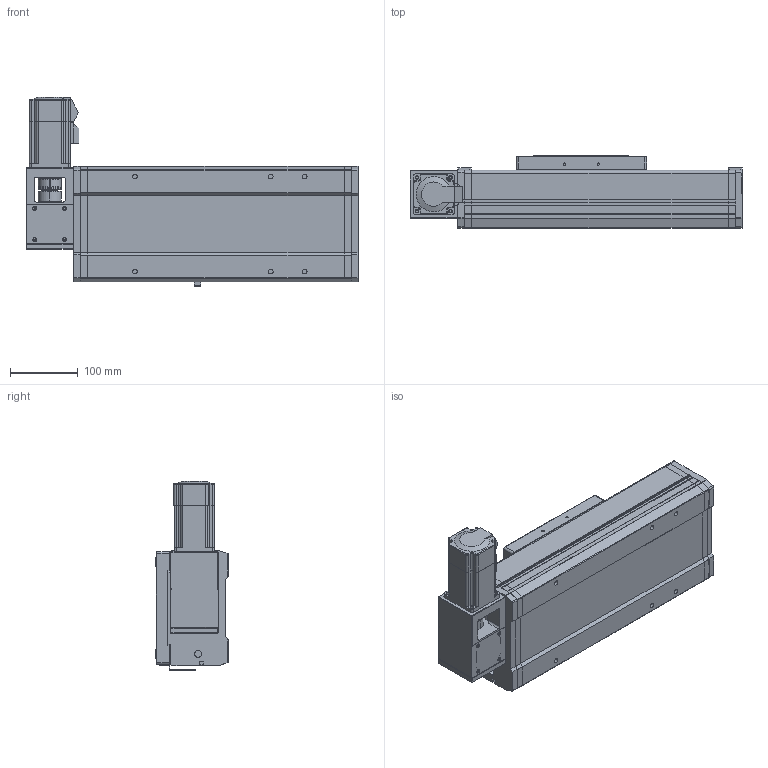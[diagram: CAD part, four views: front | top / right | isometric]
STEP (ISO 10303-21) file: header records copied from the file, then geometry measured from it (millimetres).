
FILE_DESCRIPTION((''),'2;1');
FILE_NAME('170-TZJ3FL-S100_ASM','2015-12-04T',('lenovo'),(''),'PRO/ENGINEER BY PARAMETRIC TECHNOLOGY CORPORATION, 2010280','PRO/ENGINEER BY PARAMETRIC TECHNOLOGY CORPORATION, 2010280','');
FILE_SCHEMA(('CONFIG_CONTROL_DESIGN'));
Length unit declared in the file: millimetre
Products named in the file (5): 170-TJFL-DZ; 170-HK; 170-HDB-01; 170-TZJ3FL-DJZ; 170-TZJ3FL-S100_ASM
Assembly tree (4 placements, depth 2):
  170-TZJ3FL-S100_ASM
    170-TJFL-DZ
    170-HK
    170-HDB-01
    170-TZJ3FL-DJZ
Bounding box: 489 x 107 x 278.5 mm (x, y, z)
Volume: 4314077 mm3; surface area: 719449.6 mm2
Topology: 6 solids, 30 shells, 1462 faces, 3985 edges, 2657 vertices
Faces by surface type: plane 786, cylinder 535, cone 113, torus 28
Entity records: 46939 total; most frequent: CARTESIAN_POINT 8387, DIRECTION 8228, ORIENTED_EDGE 7970, EDGE_CURVE 3985, AXIS2_PLACEMENT_3D 2814, VERTEX_POINT 2657, VECTOR 2600, LINE 2600
